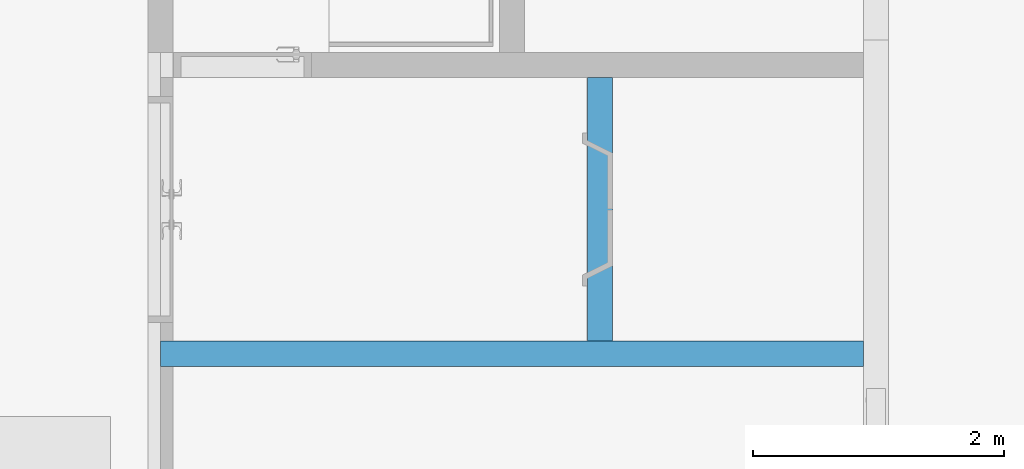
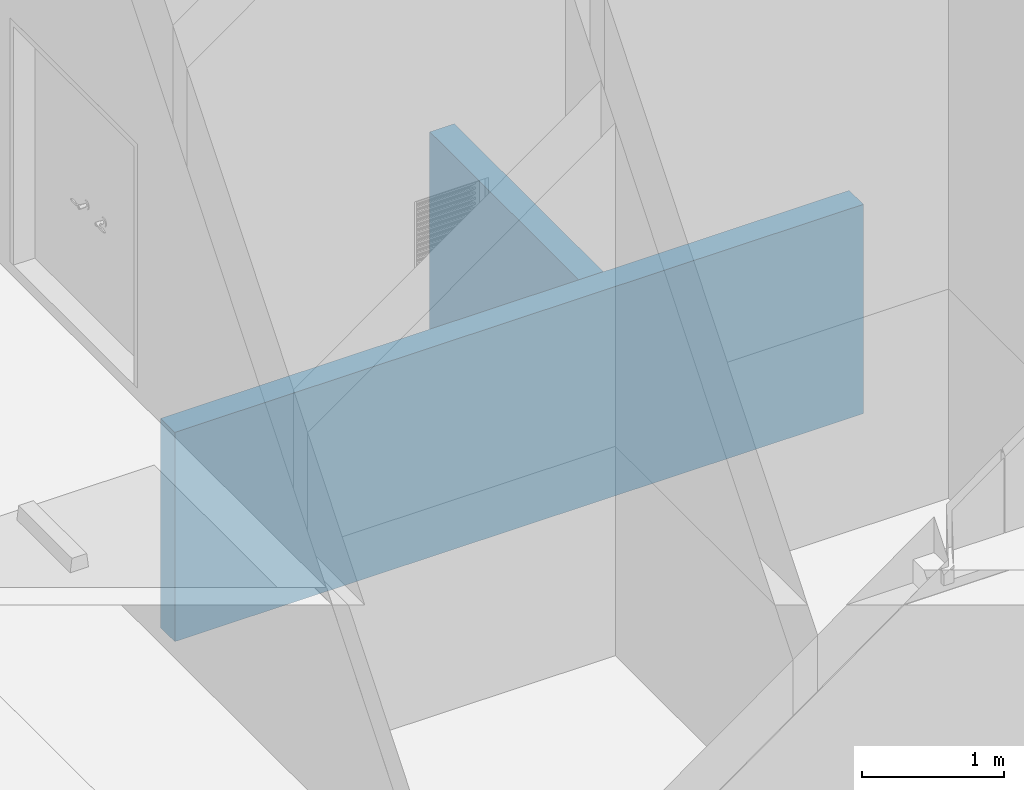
# One storey, part 12 of 30: 2 walls.
"""IFC2X3 building model written with IfcOpenShell, lengths in millimetres."""

from ifc_helpers import new_model, entity, si_unit, converted_unit, derived_unit, direction, frame, frame_2d, origin, place, context, subcontext, project, spatial, rectangle, extrude, material, layer, layer_set, layer_usage, type_object, element, save


model = new_model("IFC2X3")

# Units and contexts
model_context = context("Model", 3, precision=0.01, world=origin(), true_north=direction((6.123031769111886e-17, 1.0)))
body_context = subcontext(model_context, "Body", "Model", "MODEL_VIEW")
ifc_project = project(units=[si_unit("LENGTHUNIT", "METRE", prefix="MILLI"), si_unit("AREAUNIT", "SQUARE_METRE"), si_unit("VOLUMEUNIT", "CUBIC_METRE"), converted_unit("PLANEANGLEUNIT", "DEGREE", entity("IfcRatioMeasure", 0.017453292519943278), si_unit("PLANEANGLEUNIT", "RADIAN"), dimensions=[0, 0, 0, 0, 0, 0, 0]), si_unit("MASSUNIT", "GRAM", prefix="KILO"), derived_unit("MASSDENSITYUNIT", [(si_unit("MASSUNIT", "GRAM", prefix="KILO"), 1), (si_unit("LENGTHUNIT", "METRE"), -3)]), derived_unit("MOMENTOFINERTIAUNIT", [(si_unit("LENGTHUNIT", "METRE"), 4)]), si_unit("TIMEUNIT", "SECOND"), si_unit("FREQUENCYUNIT", "HERTZ"), si_unit("THERMODYNAMICTEMPERATUREUNIT", "DEGREE_CELSIUS"), derived_unit("THERMALTRANSMITTANCEUNIT", [(si_unit("MASSUNIT", "GRAM", prefix="KILO"), 1), (si_unit("THERMODYNAMICTEMPERATUREUNIT", "KELVIN"), -1), (si_unit("TIMEUNIT", "SECOND"), -3)]), derived_unit("VOLUMETRICFLOWRATEUNIT", [(si_unit("LENGTHUNIT", "METRE"), 3), (si_unit("TIMEUNIT", "SECOND"), -1)]), derived_unit("MASSFLOWRATEUNIT", [(si_unit("MASSUNIT", "GRAM", prefix="KILO"), 1), (si_unit("TIMEUNIT", "SECOND"), -1)]), derived_unit("ROTATIONALFREQUENCYUNIT", [(si_unit("TIMEUNIT", "SECOND"), -1)]), si_unit("ELECTRICCURRENTUNIT", "AMPERE"), si_unit("ELECTRICVOLTAGEUNIT", "VOLT"), si_unit("POWERUNIT", "WATT"), si_unit("FORCEUNIT", "NEWTON", prefix="KILO"), si_unit("ILLUMINANCEUNIT", "LUX"), si_unit("LUMINOUSFLUXUNIT", "LUMEN"), si_unit("LUMINOUSINTENSITYUNIT", "CANDELA"), derived_unit("USERDEFINED", [(si_unit("MASSUNIT", "GRAM", prefix="KILO"), -1), (si_unit("LENGTHUNIT", "METRE"), -2), (si_unit("TIMEUNIT", "SECOND"), 3), (si_unit("LUMINOUSFLUXUNIT", "LUMEN"), 1)]), derived_unit("SOUNDPOWERUNIT", [(si_unit("MASSUNIT", "GRAM", prefix="KILO"), 1), (si_unit("LENGTHUNIT", "METRE"), 2), (si_unit("TIMEUNIT", "SECOND"), -3)]), derived_unit("SOUNDPRESSUREUNIT", [(si_unit("MASSUNIT", "GRAM", prefix="KILO"), 1), (si_unit("LENGTHUNIT", "METRE"), -1), (si_unit("TIMEUNIT", "SECOND"), -2)]), derived_unit("LINEARVELOCITYUNIT", [(si_unit("LENGTHUNIT", "METRE"), 1), (si_unit("TIMEUNIT", "SECOND"), -1)]), si_unit("PRESSUREUNIT", "PASCAL"), derived_unit("USERDEFINED", [(si_unit("LENGTHUNIT", "METRE"), -2), (si_unit("MASSUNIT", "GRAM", prefix="KILO"), 1), (si_unit("TIMEUNIT", "SECOND"), -2)]), derived_unit("LINEARFORCEUNIT", [(si_unit("MASSUNIT", "GRAM", prefix="KILO"), 1), (si_unit("LENGTHUNIT", "METRE"), 1), (si_unit("TIMEUNIT", "SECOND"), -2), (si_unit("LENGTHUNIT", "METRE"), -1)]), derived_unit("PLANARFORCEUNIT", [(si_unit("MASSUNIT", "GRAM", prefix="KILO"), 1), (si_unit("LENGTHUNIT", "METRE"), 1), (si_unit("TIMEUNIT", "SECOND"), -2), (si_unit("LENGTHUNIT", "METRE"), -2)])], contexts=[model_context])

# Site, building, storey
site_placement = place(None, frame((-14167.972527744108, -657.2125860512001, 0.0)))
site = spatial("IfcSite", under=ifc_project, at=site_placement, Name="Default", CompositionType="ELEMENT")
building_placement = place(site_placement, origin())
building = spatial("IfcBuilding", under=site, at=building_placement, Name="Sample Building", CompositionType="ELEMENT")
storey_placement = place(building_placement, frame((0.0, 0.0, -10100.0)))
storey = spatial("IfcBuildingStorey", under=building, at=storey_placement, Name="지하2층", CompositionType="ELEMENT", Elevation=-10100.0)

# Walls
ifc_material = material(Name="KBIMS-콘크리트")
ifc_layer = layer(ifc_material, 200.0)
ifc_layer_set = layer_set([ifc_layer], Name="기본 벽:WA111-철근콘크리트구조 벽 200mm_CW1")
ifc_layer_usage_1 = layer_usage(ifc_layer_set, "AXIS2", "NEGATIVE", 100.0)
wall_type = type_object("IfcWallType", Name="기본 벽:WA111-철근콘크리트구조 벽 200mm_CW1", PredefinedType="STANDARD", material=ifc_layer_set)
wall_1_placement = place(storey_placement, frame((30166.125814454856, 20057.212307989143, -1800.0)))
element("IfcWallStandardCase", 1, at=wall_1_placement, inside=storey, type_object=wall_type, material=ifc_layer_usage_1, Name="기본 벽:WA111-철근콘크리트구조 벽 200mm_CW1", ObjectType="기본 벽:WA111-철근콘크리트구조 벽 200mm_CW1", context=body_context, shape_type="SweptSolid", body=[
    extrude(rectangle(XDim=5601.846676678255, YDim=199.99999999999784, at=frame_2d((2800.9233383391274, 0.0), x_axis=(-1.0, 0.0))), origin(), (0.0, 0.0, 1.0), 1799.999999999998),
])
ifc_layer_usage_2 = layer_usage(ifc_layer_set, "AXIS2", "NEGATIVE", 100.0)
wall_2_placement = place(storey_placement, frame((33667.97249113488, 22257.212311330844, -1800.0), z_axis=(0.0, 0.0, 1.0), x_axis=(0.0, -1.0, 0.0)))
element("IfcWallStandardCase", 2, at=wall_2_placement, inside=storey, type_object=wall_type, material=ifc_layer_usage_2, Name="기본 벽:WA111-철근콘크리트구조 벽 200mm_CW1", ObjectType="기본 벽:WA111-철근콘크리트구조 벽 200mm_CW1", context=body_context, shape_type="SweptSolid", body=[
    extrude(rectangle(XDim=2100.0000033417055, YDim=199.99999999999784, at=frame_2d((1050.0000016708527, 0.0), x_axis=(-1.0, 0.0))), origin(), (0.0, 0.0, 1.0), 1799.999999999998),
])

save(model, "model.ifc")
